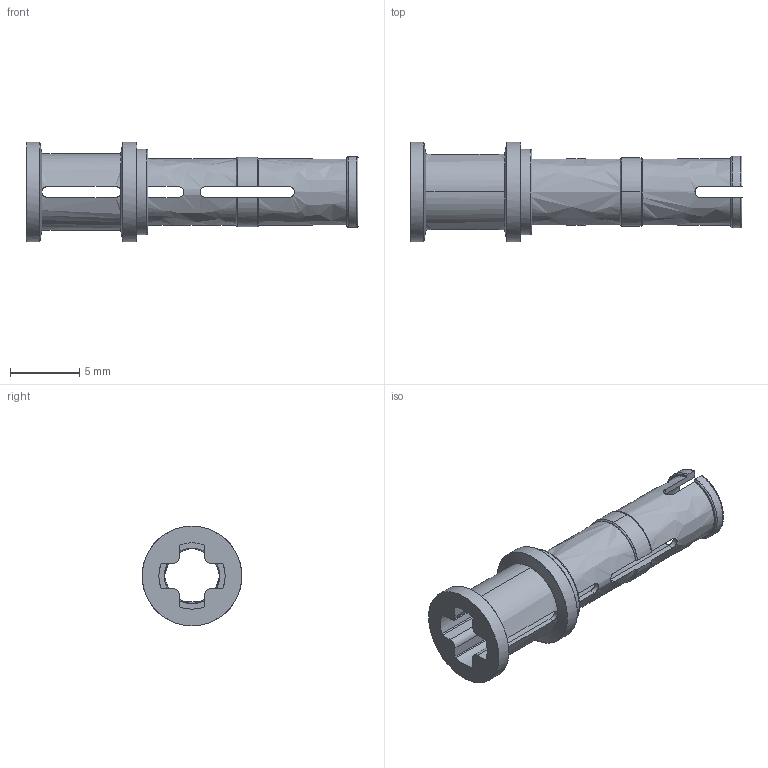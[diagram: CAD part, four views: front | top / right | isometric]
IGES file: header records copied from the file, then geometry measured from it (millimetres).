
Start section: C
Global section: file name: ClGray_4211865_AVV.iges; native system: By Siemens PLM Incorporated; preprocessor: XPlus GENERIC/IGES 26.1.183; author: Author; organization: Title; date: 20250721.235403; units: millimetre
Bounding box: 24 x 7.19 x 7.2 mm (x, y, z)
Surface area: 802.4 mm2 (no closed solid volume)
Topology: 0 solids, 0 shells, 97 faces, 702 edges, 702 vertices
Faces by surface type: bspline 97
